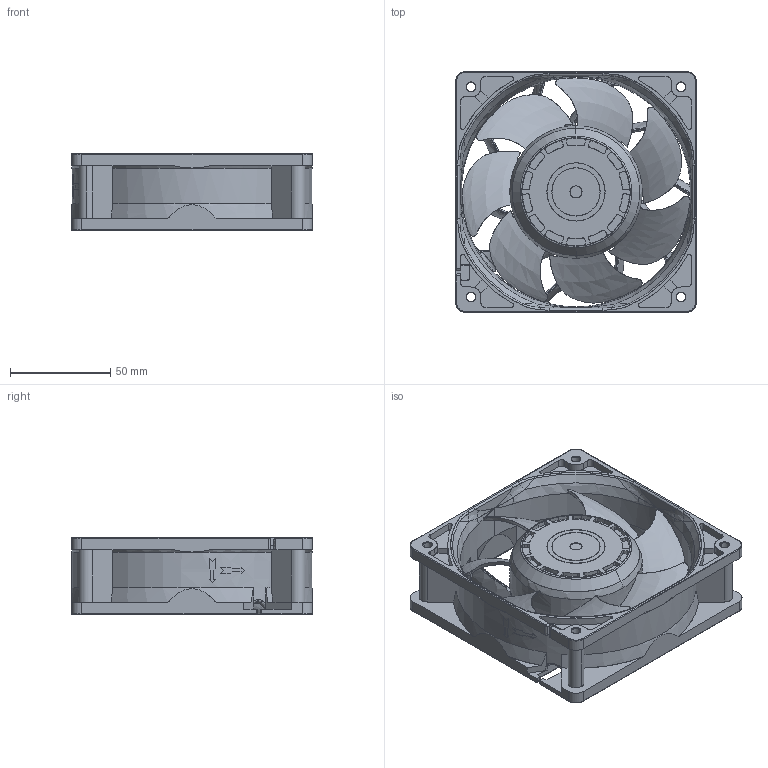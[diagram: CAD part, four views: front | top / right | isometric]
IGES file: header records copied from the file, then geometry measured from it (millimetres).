
Start section: SolidWorks IGES file using analytic representation for surfaces
Bounding box: 120 x 120 x 38.2 mm (x, y, z)
Surface area: 84603.8 mm2 (no closed solid volume)
Topology: 0 solids, 0 shells, 856 faces, 10153 edges, 10072 vertices
Faces by surface type: bspline 517, revolution 339
